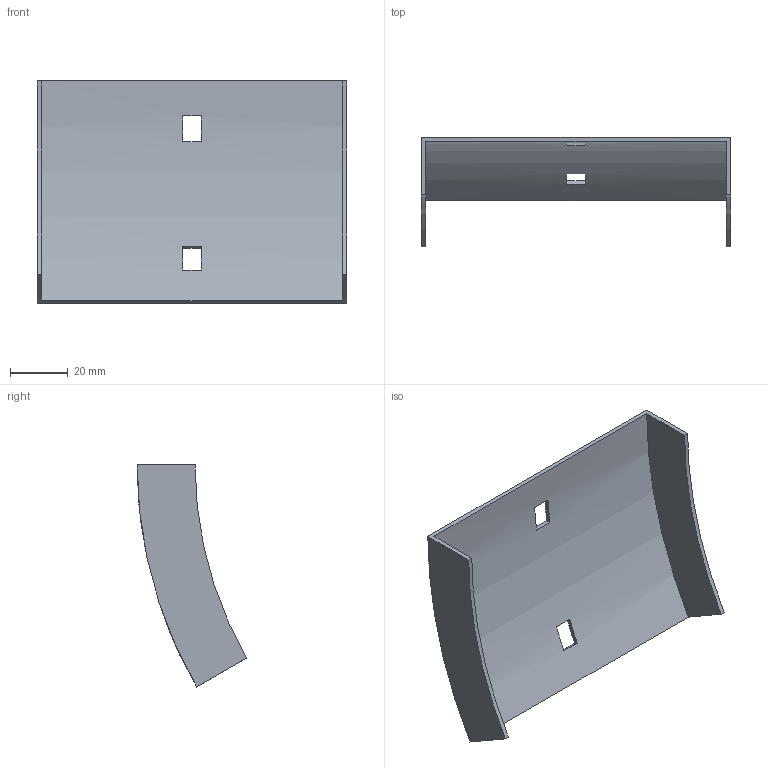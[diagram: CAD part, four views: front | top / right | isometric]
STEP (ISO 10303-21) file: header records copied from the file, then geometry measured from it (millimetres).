
FILE_DESCRIPTION (( 'STEP AP214' ), '1' );
FILE_NAME ('35N1B100.step', '2025-02-21T09:11:51', ( '' ), ( '' ), 'SwSTEP 2.0', 'SolidWorks 2023', '' );
FILE_SCHEMA (( 'AUTOMOTIVE_DESIGN' ));
Length unit declared in the file: millimetre
Products named in the file (1): 35N1B100
Bounding box: 107 x 37.89 x 76.75 mm (x, y, z)
Volume: 16808.5 mm3; surface area: 23147.7 mm2
Topology: 1 solids, 1 shells, 18 faces, 48 edges, 32 vertices
Faces by surface type: plane 14, cylinder 4
Entity records: 599 total; most frequent: DIRECTION 102, CARTESIAN_POINT 99, ORIENTED_EDGE 96, EDGE_CURVE 48, AXIS2_PLACEMENT_3D 35, VECTOR 32, VERTEX_POINT 32, LINE 32
